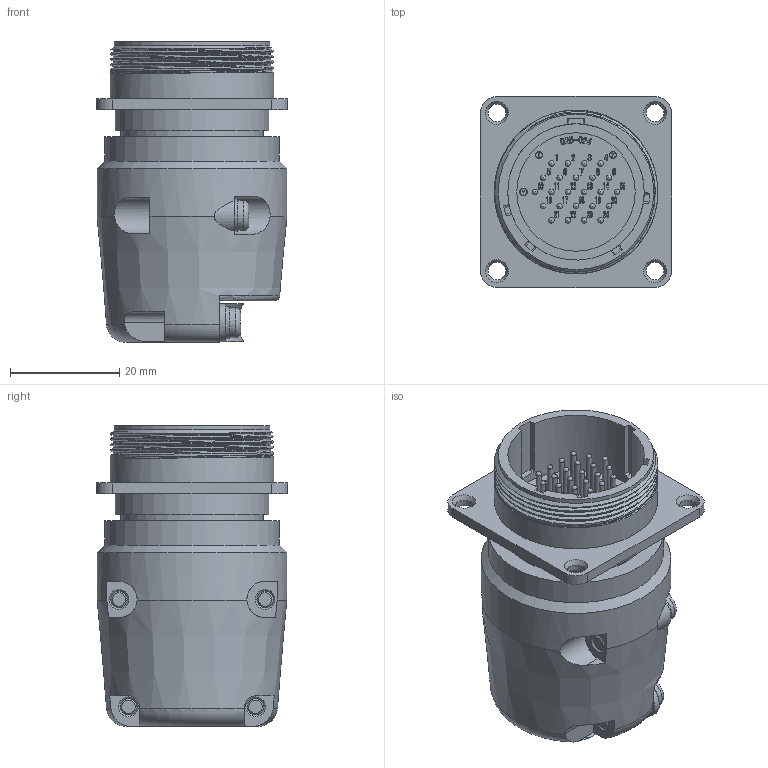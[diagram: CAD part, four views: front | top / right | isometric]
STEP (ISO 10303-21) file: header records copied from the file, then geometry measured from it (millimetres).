
FILE_DESCRIPTION (( 'STEP AP203' ), '1' );
FILE_NAME ('JMWR2524MM-D.STEP', '2021-07-16T05:33:30', ( '' ), ( '' ), 'SwSTEP 2.0', 'SolidWorks 2018', '' );
FILE_SCHEMA (( 'CONFIG_CONTROL_DESIGN' ));
Products named in the file (1): JMWR2524MM-D
Bounding box: 35 x 35 x 55.1 mm (x, y, z)
Volume: 19571.9 mm3; surface area: 16551.4 mm2
Topology: 1 solids, 1 shells, 2153 faces, 5926 edges, 3913 vertices
Faces by surface type: plane 938, bspline 906, cylinder 221, cone 48, sphere 24, torus 16
Full cylindrical faces by diameter (mm): 1 x24, 1.1 x24, 1.2 x4, 1.4 x4, 1.55 x24, 3 x6, 3.2 x4, 5.5 x4, 18.4 x1, 21.3 x1, 21.7 x1, 25 x1, 26.2 x1, 26.4 x1, 28.2 x1, 28.5 x1, 29.4 x1, 29.96 x4, 32 x1, 34.8 x1
Entity records: 100920 total; most frequent: CARTESIAN_POINT 54051, ORIENTED_EDGE 11226, DIRECTION 6517, EDGE_CURVE 5613, VERTEX_POINT 3789, VECTOR 3085, LINE 3085, EDGE_LOOP 2486
